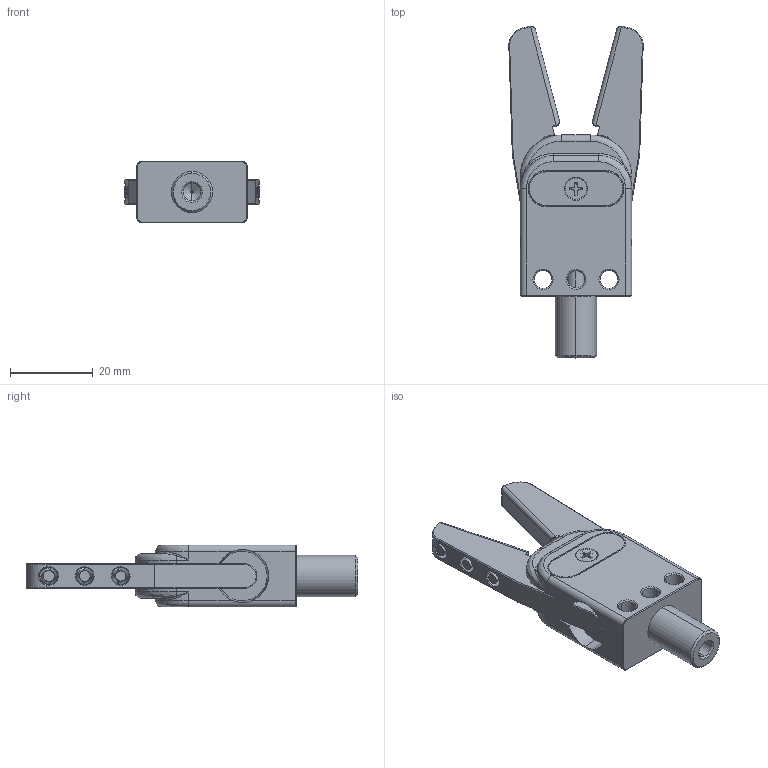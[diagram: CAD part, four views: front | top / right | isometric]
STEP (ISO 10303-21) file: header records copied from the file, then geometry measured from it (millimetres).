
FILE_DESCRIPTION (( 'STEP AP203' ), '1' );
FILE_NAME ('GR10N-12-CP.STEP', '2024-09-23T03:39:27', ( '' ), ( '' ), 'SwSTEP 2.0', 'SolidWorks 2018', '' );
FILE_SCHEMA (( 'CONFIG_CONTROL_DESIGN' ));
Length unit declared in the file: millimetre
Products named in the file (1): GR10N-12-CP
Bounding box: 32.58 x 80.4 x 15 mm (x, y, z)
Volume: 16273.2 mm3; surface area: 9547.8 mm2
Topology: 3 solids, 6 shells, 437 faces, 1015 edges, 598 vertices
Faces by surface type: plane 146, cylinder 118, cone 107, bspline 66
Entity records: 19985 total; most frequent: CARTESIAN_POINT 10294, ORIENTED_EDGE 2022, DIRECTION 1961, EDGE_CURVE 1011, AXIS2_PLACEMENT_3D 718, VERTEX_POINT 598, VECTOR 525, LINE 525
